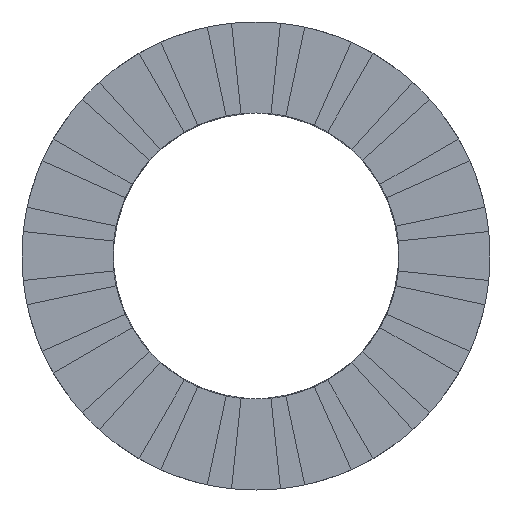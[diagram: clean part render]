
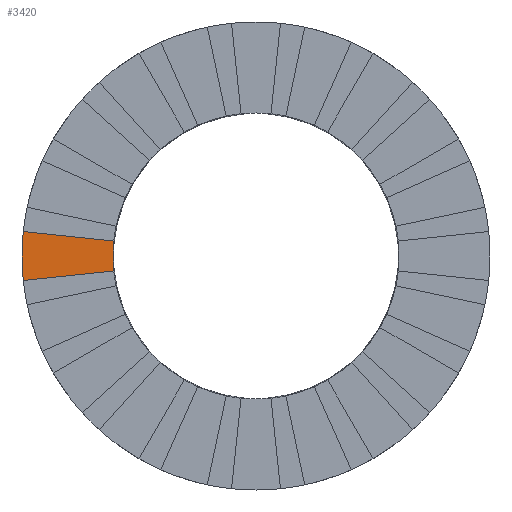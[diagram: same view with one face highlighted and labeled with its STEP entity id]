
A CAD part, front view. The second image highlights one B-rep face of the part: STEP entity #3420.
In plain terms, the highlighted planar face has unit normal (0, -1, 0).
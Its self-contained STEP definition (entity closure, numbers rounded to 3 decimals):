
#84 = CARTESIAN_POINT ( 'NONE',  ( -2.735, 0., -0.287 ) ) ;
#279 = AXIS2_PLACEMENT_3D ( 'NONE', #3757, #1765, #5064 ) ;
#316 = DIRECTION ( 'NONE',  ( 0.995, 0., -0.105 ) ) ;
#372 = FACE_OUTER_BOUND ( 'NONE', #1697, .T. ) ;
#744 = DIRECTION ( 'NONE',  ( -0.995, 0., -0.105 ) ) ;
#867 = VERTEX_POINT ( 'NONE', #2779 ) ;
#1003 = VECTOR ( 'NONE', #316, 1000. ) ;
#1413 = DIRECTION ( 'NONE',  ( 0., 1., 0. ) ) ;
#1590 = EDGE_CURVE ( 'NONE', #3680, #867, #2953, .T. ) ;
#1644 = VERTEX_POINT ( 'NONE', #3941 ) ;
#1697 = EDGE_LOOP ( 'NONE', ( #1788, #5127, #3907, #3865 ) ) ;
#1765 = DIRECTION ( 'NONE',  ( 0., 1., 0. ) ) ;
#1788 = ORIENTED_EDGE ( 'NONE', *, *, #1590, .F. ) ;
#1945 = VERTEX_POINT ( 'NONE', #4692 ) ;
#2000 = CARTESIAN_POINT ( 'NONE',  ( 0., 0., 0. ) ) ;
#2177 = LINE ( 'NONE', #5227, #1003 ) ;
#2184 = AXIS2_PLACEMENT_3D ( 'NONE', #3221, #5075, #3794 ) ;
#2220 = LINE ( 'NONE', #84, #5468 ) ;
#2431 = DIRECTION ( 'NONE',  ( 0., 0., 1. ) ) ;
#2526 = PLANE ( 'NONE',  #2184 ) ;
#2779 = CARTESIAN_POINT ( 'NONE',  ( -4.475, 0., 0.47 ) ) ;
#2953 = CIRCLE ( 'NONE', #3684, 4.5 ) ;
#3221 = CARTESIAN_POINT ( 'NONE',  ( 0., 0., 0. ) ) ;
#3420 = ADVANCED_FACE ( 'NONE', ( #372 ), #2526, .F. ) ;
#3608 = EDGE_CURVE ( 'NONE', #1644, #1945, #5313, .T. ) ;
#3680 = VERTEX_POINT ( 'NONE', #4171 ) ;
#3684 = AXIS2_PLACEMENT_3D ( 'NONE', #2000, #1413, #2431 ) ;
#3757 = CARTESIAN_POINT ( 'NONE',  ( 0., 0., 0. ) ) ;
#3794 = DIRECTION ( 'NONE',  ( 0., 0., 1. ) ) ;
#3865 = ORIENTED_EDGE ( 'NONE', *, *, #3975, .F. ) ;
#3907 = ORIENTED_EDGE ( 'NONE', *, *, #3608, .T. ) ;
#3941 = CARTESIAN_POINT ( 'NONE',  ( -2.735, 0., -0.287 ) ) ;
#3975 = EDGE_CURVE ( 'NONE', #867, #1945, #2177, .T. ) ;
#4171 = CARTESIAN_POINT ( 'NONE',  ( -4.475, 0., -0.47 ) ) ;
#4692 = CARTESIAN_POINT ( 'NONE',  ( -2.735, 0., 0.287 ) ) ;
#5064 = DIRECTION ( 'NONE',  ( 0., 0., 1. ) ) ;
#5075 = DIRECTION ( 'NONE',  ( 0., 1., 0. ) ) ;
#5127 = ORIENTED_EDGE ( 'NONE', *, *, #5447, .F. ) ;
#5227 = CARTESIAN_POINT ( 'NONE',  ( -2.735, 0., 0.287 ) ) ;
#5313 = CIRCLE ( 'NONE', #279, 2.75 ) ;
#5447 = EDGE_CURVE ( 'NONE', #1644, #3680, #2220, .T. ) ;
#5468 = VECTOR ( 'NONE', #744, 1000. ) ;
